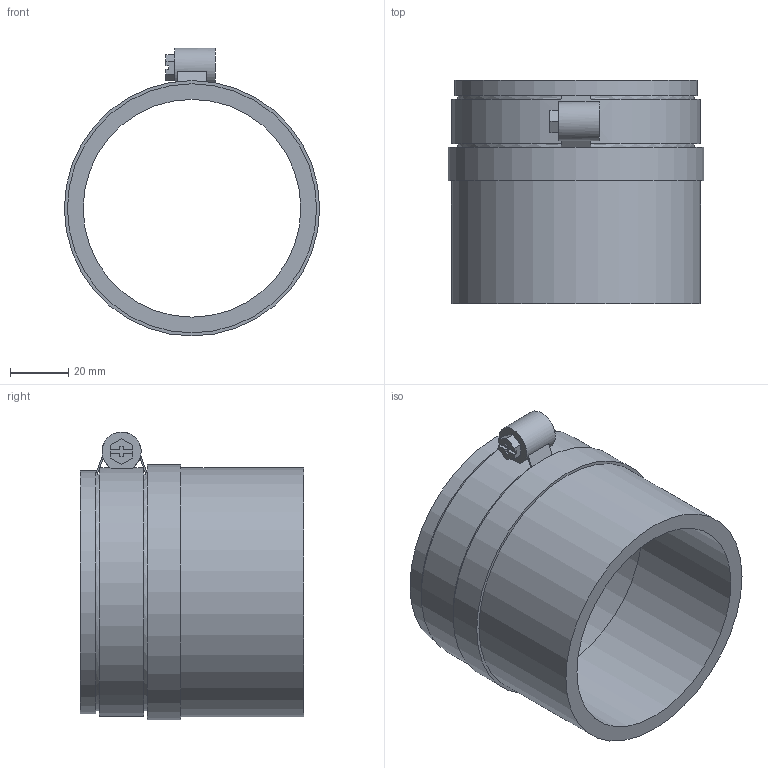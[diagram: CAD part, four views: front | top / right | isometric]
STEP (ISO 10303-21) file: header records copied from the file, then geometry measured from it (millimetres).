
FILE_DESCRIPTION( ( 'STEP AP214' ), '1' );
FILE_NAME( 'C:/Users/ilukic/Documents/ex/gebaudeentwasserung/silent_pp/Geberit SilentPP adapter sleeve to cast iron/390395.stp', '2020-03-26T18:44:41', ( '' ), ( '' ), ' ', 'PARTsolutions', ' ' );
FILE_SCHEMA( ( 'AUTOMOTIVE_DESIGN { 1 0 10303 214 1 1 1 1 }' ) );
Length unit declared in the file: millimetre
Products named in the file (1): _390395
Bounding box: 87.94 x 77 x 99.17 mm (x, y, z)
Volume: 95568.4 mm3; surface area: 45228.5 mm2
Topology: 1 solids, 1 shells, 53 faces, 144 edges, 95 vertices
Faces by surface type: plane 43, cylinder 10
Full cylindrical faces by diameter (mm): 75 x1, 78 x1, 81.51 x2, 83.655 x1, 85.8 x2, 87.945 x1
Entity records: 2040 total; most frequent: CARTESIAN_POINT 303, DIRECTION 262, ORIENTED_EDGE 260, EDGE_CURVE 130, LINE 100, VECTOR 100, VERTEX_POINT 90, AXIS2_PLACEMENT_3D 81
